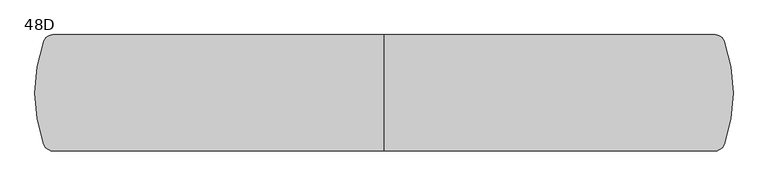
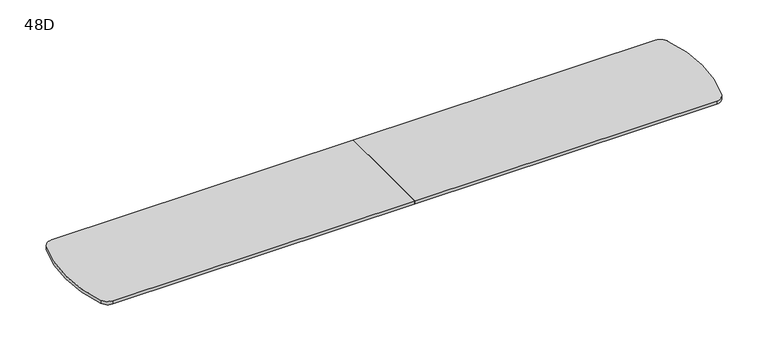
"""IFC4 building model written with IfcOpenShell, lengths in millimetres: furniture geometry, Coalesse_AM_Table_Conference_ETable2_SoftRadiused_24ft_FourBase : 48D."""

from ifc_helpers import new_model, si_unit, point, frame, frame_2d, origin, place, context, project, spatial, polyline, circle_curve, trimmed, segment, composite_curve, outline, extrude, source, transform, mapped, element, save


def furniture_48d_0e4f156b(model_context):
    return source(origin(), model_context, "Body", "SweptSolid", [
        extrude(outline(composite_curve([segment(polyline([(0.0, 19.0117629), (0.0, 609.6), (3468.4557965, 609.6)]), True, "CONTINUOUS"), segment(trimmed(circle_curve(frame_2d((3468.4557965, 508.0)), 101.6), [point((3468.4557965, 609.6))], [point((3564.2453259, 541.8662966))], False, "CARTESIAN"), True, "CONTINUOUS"), segment(polyline([(3564.2453259, 541.8662966), (3564.9956256, 539.7441026)]), True, "CONTINUOUS"), segment(trimmed(circle_curve(frame_2d((2038.35, 0.0)), 1619.25), [point((3564.9956256, 539.7441026))], [point((3564.9956256, -539.7441026))], False, "CARTESIAN"), True, "CONTINUOUS"), segment(polyline([(3564.9956256, -539.7441026), (3564.2453259, -541.8662966)]), True, "CONTINUOUS"), segment(trimmed(circle_curve(frame_2d((3468.4557965, -508.0)), 101.6), [point((3564.2453259, -541.8662966))], [point((3468.4557965, -609.6))], False, "CARTESIAN"), True, "CONTINUOUS"), segment(polyline([(3468.4557965, -609.6), (0.0, -609.6), (0.0, 19.0117629)]), True, "CONTINUOUS")], self_intersect=False)), frame((0.0, 0.0, 698.5), z_axis=(0.0, 0.0, 1.0), x_axis=(1.0, 0.0, 0.0)), (0.0, 0.0, 1.0), 38.1),
        extrude(outline(composite_curve([segment(polyline([(0.0, 1.2645153), (0.0, -609.6), (-3468.4557965, -609.6)]), True, "CONTINUOUS"), segment(trimmed(circle_curve(frame_2d((-3468.4557965, -508.0)), 101.6), [point((-3468.4557965, -609.6))], [point((-3564.2453259, -541.8662966))], False, "CARTESIAN"), True, "CONTINUOUS"), segment(polyline([(-3564.2453259, -541.8662966), (-3564.9956256, -539.7441026)]), True, "CONTINUOUS"), segment(trimmed(circle_curve(frame_2d((-2038.35, 0.0)), 1619.25), [point((-3564.9956256, -539.7441026))], [point((-3564.9956256, 539.7441026))], False, "CARTESIAN"), True, "CONTINUOUS"), segment(polyline([(-3564.9956256, 539.7441026), (-3564.2453259, 541.8662966)]), True, "CONTINUOUS"), segment(trimmed(circle_curve(frame_2d((-3468.4557965, 508.0)), 101.6), [point((-3564.2453259, 541.8662966))], [point((-3468.4557965, 609.6))], False, "CARTESIAN"), True, "CONTINUOUS"), segment(polyline([(-3468.4557965, 609.6), (0.0, 609.6), (0.0, 1.2645153)]), True, "CONTINUOUS")], self_intersect=False)), frame((0.0, 0.0, 698.5), z_axis=(0.0, 0.0, 1.0), x_axis=(1.0, 0.0, 0.0)), (0.0, 0.0, 1.0), 38.1),
        extrude(outline(polyline([(96.8375, 698.5), (103.1875, 698.5), (103.1875, 476.25), (-103.1875, 476.25), (-103.1875, 698.5), (-96.8375, 698.5), (-96.8375, 482.6), (96.8375, 482.6), (96.8375, 698.5)])), frame((-3028.95, 0.0, 0.0), z_axis=(1.0, 0.0, 0.0), x_axis=(0.0, 1.0, 0.0)), (0.0, 0.0, 1.0), 6057.9),
    ])


if __name__ == "__main__":
    model = new_model("IFC4")
    model_context = context("Model", 3, world=origin())
    ifc_project = project(units=[si_unit("LENGTHUNIT", "METRE", prefix="MILLI")], contexts=[model_context])
    site = spatial("IfcSite", under=ifc_project)
    building = spatial("IfcBuilding", under=site)
    placement = place(None, origin())
    furniture_48d_shape = furniture_48d_0e4f156b(model_context)
    element("IfcFurniture", 1, ObjectType="Coalesse_AM_Table_Conference_ETable2_SoftRadiused_24ft_FourBase : 48D", at=placement, inside=building, context=model_context, shape_type="MappedRepresentation", body=[
        mapped(furniture_48d_shape, transform((0.0, 0.0, 0.0), x_axis=(1.0, 0.0, 0.0), y_axis=(0.0, 1.0, 0.0), z_axis=(0.0, 0.0, 1.0))),
    ])
    save(model, "model.ifc")
